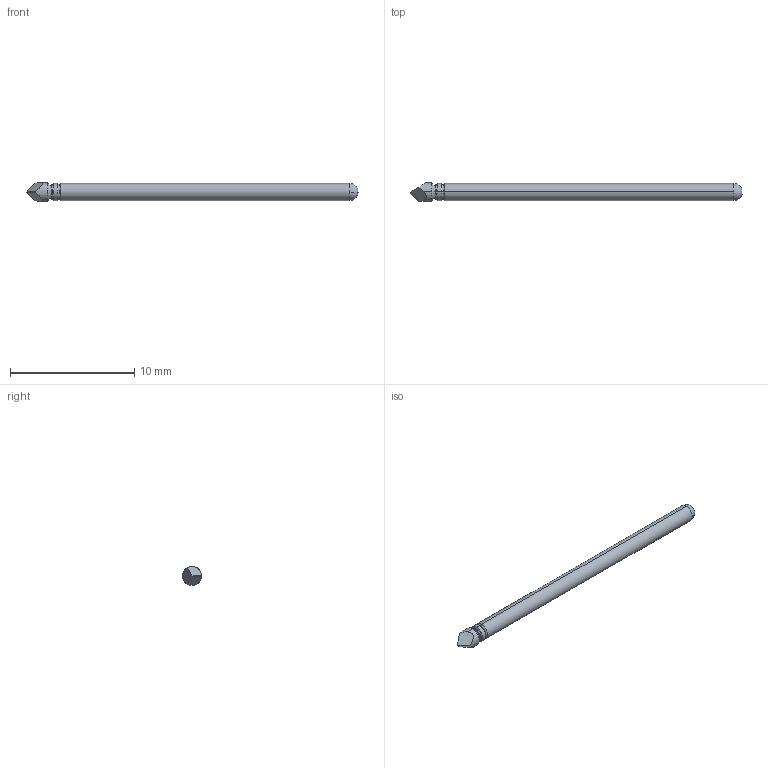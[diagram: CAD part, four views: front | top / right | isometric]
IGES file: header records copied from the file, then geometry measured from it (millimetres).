
Start section: SolidWorks IGES file using analytic representation for surfaces
Global section: file name: Z:\probe solid model mockups\Solidworks models\POGO-25 IGS files\POGO-25T Full.IGS; native system: SolidWorks 2006 by SolidWorks Corporation; preprocessor: SolidWorks 2006 by SolidWorks Corporation; author: tsakatani; date: 071214.093230; units: inch
Bounding box: 26.67 x 1.52 x 1.52 mm (x, y, z)
Surface area: 115.5 mm2 (no closed solid volume)
Topology: 0 solids, 0 shells, 23 faces, 176 edges, 176 vertices
Faces by surface type: revolution 14, bspline 9
